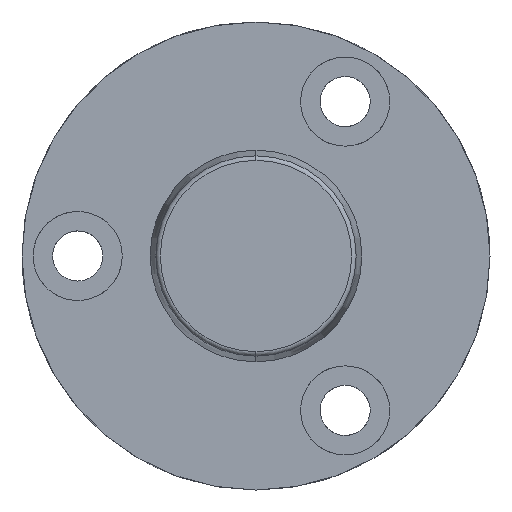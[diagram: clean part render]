
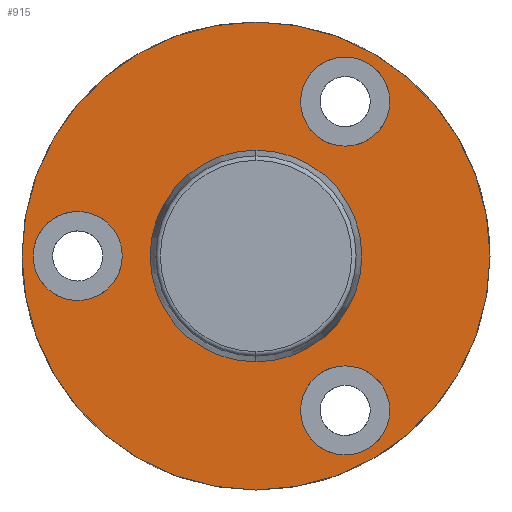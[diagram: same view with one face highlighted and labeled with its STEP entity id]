
A CAD part, left-side view. The second image highlights one B-rep face of the part: STEP entity #915.
In plain terms, the highlighted planar face has unit normal (-1, 0, 0).
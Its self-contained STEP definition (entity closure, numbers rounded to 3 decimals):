
#429=CARTESIAN_POINT('Vertex',(-8.,0.,-21.)) ;
#432=CARTESIAN_POINT('Axis2P3D Location',(-8.,0.,0.)) ;
#436=CARTESIAN_POINT('Vertex',(-8.,21.,0.)) ;
#439=CARTESIAN_POINT('Axis2P3D Location',(-8.,0.,0.)) ;
#443=CARTESIAN_POINT('Vertex',(-8.,0.,21.)) ;
#465=CARTESIAN_POINT('Axis2P3D Location',(-8.,0.,0.)) ;
#469=CARTESIAN_POINT('Vertex',(-8.,-21.,0.)) ;
#472=CARTESIAN_POINT('Axis2P3D Location',(-8.,0.,0.)) ;
#768=CARTESIAN_POINT('Axis2P3D Location',(-8.,8.,0.)) ;
#779=CARTESIAN_POINT('Axis2P3D Location',(-8.,16.,0.)) ;
#783=CARTESIAN_POINT('Vertex',(-8.,16.,4.)) ;
#785=CARTESIAN_POINT('Vertex',(-8.,20.,0.)) ;
#788=CARTESIAN_POINT('Axis2P3D Location',(-8.,16.,0.)) ;
#792=CARTESIAN_POINT('Vertex',(-8.,12.,0.)) ;
#795=CARTESIAN_POINT('Axis2P3D Location',(-8.,16.,0.)) ;
#799=CARTESIAN_POINT('Vertex',(-8.,16.,-4.)) ;
#802=CARTESIAN_POINT('Axis2P3D Location',(-8.,16.,0.)) ;
#813=CARTESIAN_POINT('Axis2P3D Location',(-8.,-8.,13.856)) ;
#817=CARTESIAN_POINT('Vertex',(-8.,-4.,13.856)) ;
#819=CARTESIAN_POINT('Vertex',(-8.,-8.,17.856)) ;
#822=CARTESIAN_POINT('Axis2P3D Location',(-8.,-8.,13.856)) ;
#826=CARTESIAN_POINT('Vertex',(-8.,-12.,13.856)) ;
#829=CARTESIAN_POINT('Axis2P3D Location',(-8.,-8.,13.856)) ;
#833=CARTESIAN_POINT('Vertex',(-8.,-8.,9.856)) ;
#836=CARTESIAN_POINT('Axis2P3D Location',(-8.,-8.,13.856)) ;
#847=CARTESIAN_POINT('Axis2P3D Location',(-8.,-8.,-13.856)) ;
#851=CARTESIAN_POINT('Vertex',(-8.,-4.,-13.856)) ;
#853=CARTESIAN_POINT('Vertex',(-8.,-8.,-9.856)) ;
#856=CARTESIAN_POINT('Axis2P3D Location',(-8.,-8.,-13.856)) ;
#860=CARTESIAN_POINT('Vertex',(-8.,-12.,-13.856)) ;
#863=CARTESIAN_POINT('Axis2P3D Location',(-8.,-8.,-13.856)) ;
#867=CARTESIAN_POINT('Vertex',(-8.,-8.,-17.856)) ;
#870=CARTESIAN_POINT('Axis2P3D Location',(-8.,-8.,-13.856)) ;
#881=CARTESIAN_POINT('Axis2P3D Location',(-8.,0.,0.)) ;
#885=CARTESIAN_POINT('Vertex',(-8.,8.,0.)) ;
#887=CARTESIAN_POINT('Vertex',(-8.,0.,8.)) ;
#890=CARTESIAN_POINT('Axis2P3D Location',(-8.,0.,0.)) ;
#894=CARTESIAN_POINT('Vertex',(-8.,-8.,0.)) ;
#897=CARTESIAN_POINT('Axis2P3D Location',(-8.,0.,0.)) ;
#901=CARTESIAN_POINT('Vertex',(-8.,0.,-8.)) ;
#904=CARTESIAN_POINT('Axis2P3D Location',(-8.,0.,0.)) ;
#433=DIRECTION('Axis2P3D Direction',(-1.,-0.,-0.)) ;
#440=DIRECTION('Axis2P3D Direction',(-1.,-0.,-0.)) ;
#466=DIRECTION('Axis2P3D Direction',(-1.,-0.,-0.)) ;
#473=DIRECTION('Axis2P3D Direction',(-1.,-0.,-0.)) ;
#769=DIRECTION('Axis2P3D Direction',(1.,0.,-0.)) ;
#770=DIRECTION('Axis2P3D XDirection',(-0.,0.,-1.)) ;
#780=DIRECTION('Axis2P3D Direction',(1.,0.,-0.)) ;
#789=DIRECTION('Axis2P3D Direction',(1.,0.,-0.)) ;
#796=DIRECTION('Axis2P3D Direction',(1.,0.,-0.)) ;
#803=DIRECTION('Axis2P3D Direction',(1.,0.,-0.)) ;
#814=DIRECTION('Axis2P3D Direction',(1.,0.,-0.)) ;
#823=DIRECTION('Axis2P3D Direction',(1.,0.,-0.)) ;
#830=DIRECTION('Axis2P3D Direction',(1.,0.,-0.)) ;
#837=DIRECTION('Axis2P3D Direction',(1.,0.,-0.)) ;
#848=DIRECTION('Axis2P3D Direction',(1.,0.,-0.)) ;
#857=DIRECTION('Axis2P3D Direction',(1.,0.,-0.)) ;
#864=DIRECTION('Axis2P3D Direction',(1.,0.,-0.)) ;
#871=DIRECTION('Axis2P3D Direction',(1.,0.,-0.)) ;
#882=DIRECTION('Axis2P3D Direction',(1.,0.,-0.)) ;
#891=DIRECTION('Axis2P3D Direction',(1.,0.,-0.)) ;
#898=DIRECTION('Axis2P3D Direction',(1.,0.,-0.)) ;
#905=DIRECTION('Axis2P3D Direction',(1.,0.,-0.)) ;
#434=AXIS2_PLACEMENT_3D('Circle Axis2P3D',#432,#433,$) ;
#441=AXIS2_PLACEMENT_3D('Circle Axis2P3D',#439,#440,$) ;
#467=AXIS2_PLACEMENT_3D('Circle Axis2P3D',#465,#466,$) ;
#474=AXIS2_PLACEMENT_3D('Circle Axis2P3D',#472,#473,$) ;
#771=AXIS2_PLACEMENT_3D('Plane Axis2P3D',#768,#769,#770) ;
#781=AXIS2_PLACEMENT_3D('Circle Axis2P3D',#779,#780,$) ;
#790=AXIS2_PLACEMENT_3D('Circle Axis2P3D',#788,#789,$) ;
#797=AXIS2_PLACEMENT_3D('Circle Axis2P3D',#795,#796,$) ;
#804=AXIS2_PLACEMENT_3D('Circle Axis2P3D',#802,#803,$) ;
#815=AXIS2_PLACEMENT_3D('Circle Axis2P3D',#813,#814,$) ;
#824=AXIS2_PLACEMENT_3D('Circle Axis2P3D',#822,#823,$) ;
#831=AXIS2_PLACEMENT_3D('Circle Axis2P3D',#829,#830,$) ;
#838=AXIS2_PLACEMENT_3D('Circle Axis2P3D',#836,#837,$) ;
#849=AXIS2_PLACEMENT_3D('Circle Axis2P3D',#847,#848,$) ;
#858=AXIS2_PLACEMENT_3D('Circle Axis2P3D',#856,#857,$) ;
#865=AXIS2_PLACEMENT_3D('Circle Axis2P3D',#863,#864,$) ;
#872=AXIS2_PLACEMENT_3D('Circle Axis2P3D',#870,#871,$) ;
#883=AXIS2_PLACEMENT_3D('Circle Axis2P3D',#881,#882,$) ;
#892=AXIS2_PLACEMENT_3D('Circle Axis2P3D',#890,#891,$) ;
#899=AXIS2_PLACEMENT_3D('Circle Axis2P3D',#897,#898,$) ;
#906=AXIS2_PLACEMENT_3D('Circle Axis2P3D',#904,#905,$) ;
#774=ORIENTED_EDGE('',*,*,#438,.F.) ;
#775=ORIENTED_EDGE('',*,*,#476,.F.) ;
#776=ORIENTED_EDGE('',*,*,#471,.F.) ;
#777=ORIENTED_EDGE('',*,*,#445,.F.) ;
#808=ORIENTED_EDGE('',*,*,#787,.F.) ;
#809=ORIENTED_EDGE('',*,*,#794,.F.) ;
#810=ORIENTED_EDGE('',*,*,#801,.F.) ;
#811=ORIENTED_EDGE('',*,*,#806,.F.) ;
#842=ORIENTED_EDGE('',*,*,#821,.T.) ;
#843=ORIENTED_EDGE('',*,*,#828,.T.) ;
#844=ORIENTED_EDGE('',*,*,#835,.T.) ;
#845=ORIENTED_EDGE('',*,*,#840,.T.) ;
#876=ORIENTED_EDGE('',*,*,#855,.T.) ;
#877=ORIENTED_EDGE('',*,*,#862,.T.) ;
#878=ORIENTED_EDGE('',*,*,#869,.T.) ;
#879=ORIENTED_EDGE('',*,*,#874,.T.) ;
#910=ORIENTED_EDGE('',*,*,#889,.T.) ;
#911=ORIENTED_EDGE('',*,*,#896,.T.) ;
#912=ORIENTED_EDGE('',*,*,#903,.T.) ;
#913=ORIENTED_EDGE('',*,*,#908,.T.) ;
#812=FACE_BOUND('',#807,.T.) ;
#846=FACE_BOUND('',#841,.T.) ;
#880=FACE_BOUND('',#875,.T.) ;
#914=FACE_BOUND('',#909,.T.) ;
#915=ADVANCED_FACE('721-19x200',(#778,#812,#846,#880,#914),#772,.F.) ;
#435=CIRCLE('generated circle',#434,21.) ;
#442=CIRCLE('generated circle',#441,21.) ;
#468=CIRCLE('generated circle',#467,21.) ;
#475=CIRCLE('generated circle',#474,21.) ;
#782=CIRCLE('generated circle',#781,4.) ;
#791=CIRCLE('generated circle',#790,4.) ;
#798=CIRCLE('generated circle',#797,4.) ;
#805=CIRCLE('generated circle',#804,4.) ;
#816=CIRCLE('generated circle',#815,4.) ;
#825=CIRCLE('generated circle',#824,4.) ;
#832=CIRCLE('generated circle',#831,4.) ;
#839=CIRCLE('generated circle',#838,4.) ;
#850=CIRCLE('generated circle',#849,4.) ;
#859=CIRCLE('generated circle',#858,4.) ;
#866=CIRCLE('generated circle',#865,4.) ;
#873=CIRCLE('generated circle',#872,4.) ;
#884=CIRCLE('generated circle',#883,8.) ;
#893=CIRCLE('generated circle',#892,8.) ;
#900=CIRCLE('generated circle',#899,8.) ;
#907=CIRCLE('generated circle',#906,8.) ;
#438=EDGE_CURVE('',#430,#437,#435,.F.) ;
#445=EDGE_CURVE('',#437,#444,#442,.F.) ;
#471=EDGE_CURVE('',#444,#470,#468,.F.) ;
#476=EDGE_CURVE('',#470,#430,#475,.F.) ;
#787=EDGE_CURVE('',#784,#786,#782,.F.) ;
#794=EDGE_CURVE('',#793,#784,#791,.F.) ;
#801=EDGE_CURVE('',#800,#793,#798,.F.) ;
#806=EDGE_CURVE('',#786,#800,#805,.F.) ;
#821=EDGE_CURVE('',#818,#820,#816,.T.) ;
#828=EDGE_CURVE('',#820,#827,#825,.T.) ;
#835=EDGE_CURVE('',#827,#834,#832,.T.) ;
#840=EDGE_CURVE('',#834,#818,#839,.T.) ;
#855=EDGE_CURVE('',#852,#854,#850,.T.) ;
#862=EDGE_CURVE('',#854,#861,#859,.T.) ;
#869=EDGE_CURVE('',#861,#868,#866,.T.) ;
#874=EDGE_CURVE('',#868,#852,#873,.T.) ;
#889=EDGE_CURVE('',#886,#888,#884,.T.) ;
#896=EDGE_CURVE('',#888,#895,#893,.T.) ;
#903=EDGE_CURVE('',#895,#902,#900,.T.) ;
#908=EDGE_CURVE('',#902,#886,#907,.T.) ;
#773=EDGE_LOOP('',(#774,#775,#776,#777)) ;
#807=EDGE_LOOP('',(#808,#809,#810,#811)) ;
#841=EDGE_LOOP('',(#842,#843,#844,#845)) ;
#875=EDGE_LOOP('',(#876,#877,#878,#879)) ;
#909=EDGE_LOOP('',(#910,#911,#912,#913)) ;
#778=FACE_OUTER_BOUND('',#773,.T.) ;
#772=PLANE('Plane',#771) ;
#430=VERTEX_POINT('',#429) ;
#437=VERTEX_POINT('',#436) ;
#444=VERTEX_POINT('',#443) ;
#470=VERTEX_POINT('',#469) ;
#784=VERTEX_POINT('',#783) ;
#786=VERTEX_POINT('',#785) ;
#793=VERTEX_POINT('',#792) ;
#800=VERTEX_POINT('',#799) ;
#818=VERTEX_POINT('',#817) ;
#820=VERTEX_POINT('',#819) ;
#827=VERTEX_POINT('',#826) ;
#834=VERTEX_POINT('',#833) ;
#852=VERTEX_POINT('',#851) ;
#854=VERTEX_POINT('',#853) ;
#861=VERTEX_POINT('',#860) ;
#868=VERTEX_POINT('',#867) ;
#886=VERTEX_POINT('',#885) ;
#888=VERTEX_POINT('',#887) ;
#895=VERTEX_POINT('',#894) ;
#902=VERTEX_POINT('',#901) ;
